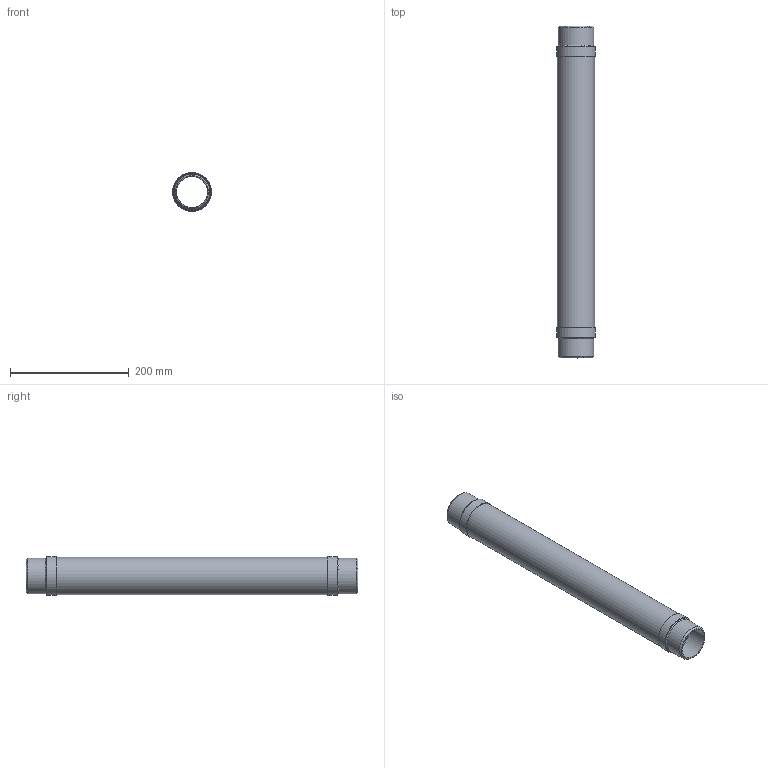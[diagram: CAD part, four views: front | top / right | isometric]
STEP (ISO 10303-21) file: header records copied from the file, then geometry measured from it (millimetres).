
FILE_DESCRIPTION(/* description */ (''),/* implementation_level */ '2;1');
FILE_NAME(/* name */ 'C:\001_Work\Designs\CSAWN\CSAWN-2x22.stp',/* time_stamp */ '2016-06-04T17:42:26-04:00',/* author */ ('rramoutar'),/* organization */ ('Mason Industries Inc.'),/* preprocessor_version */ 'ST-DEVELOPER v15.6',/* originating_system */ 'Autodesk Inventor 2015',/* authorisation */ '');
FILE_SCHEMA (('CONFIG_CONTROL_DESIGN'));
Length unit declared in the file: inch
Products named in the file (1): CSAWN-2x22
Bounding box: 65.12 x 558.8 x 65.12 mm (x, y, z)
Volume: 94682.9 mm3; surface area: 233816.1 mm2
Topology: 5 solids, 5 shells, 24 faces, 40 edges, 26 vertices
Faces by surface type: cylinder 10, plane 10, cone 4
Full cylindrical faces by diameter (mm): 52.502 x2, 60.325 x2, 61.976 x1, 62.789 x3, 65.17 x2
Entity records: 564 total; most frequent: DIRECTION 98, CARTESIAN_POINT 73, AXIS2_PLACEMENT_3D 49, EDGE_LOOP 48, ORIENTED_EDGE 48, STYLED_ITEM 29, FACE_BOUND 24, FACE_OUTER_BOUND 24
